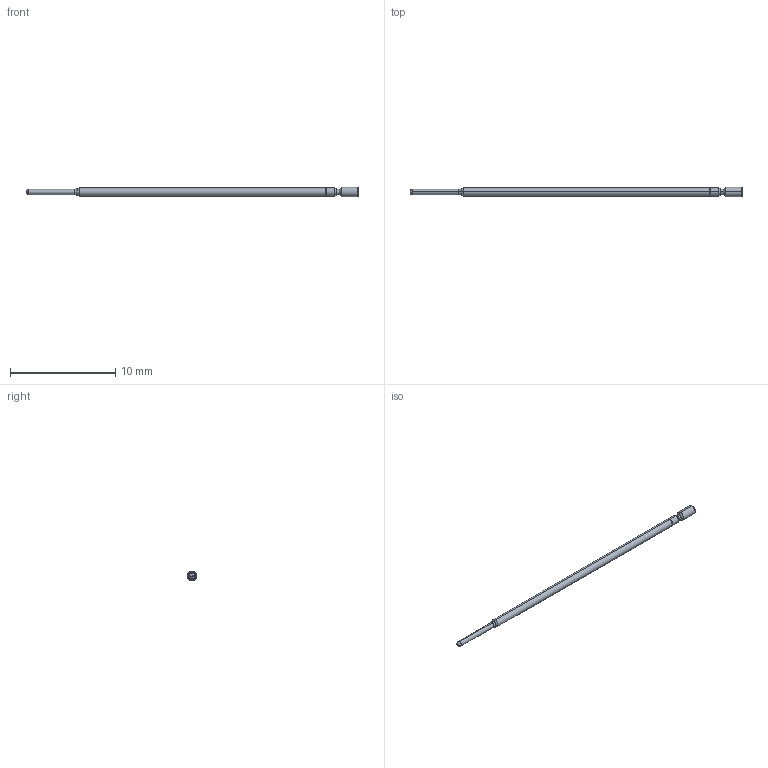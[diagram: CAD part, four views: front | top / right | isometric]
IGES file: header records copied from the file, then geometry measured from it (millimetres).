
Start section: SolidWorks IGES file using analytic representation for surfaces
Global section: file name: C:\Documents and Settings\mrumschlag\Desktop\changes\new\test\F FULL.IGS; native system: SolidWorks 2011; preprocessor: SolidWorks 2011; author: mrumschlag; date: 110630.142723; units: inch
Bounding box: 31.58 x 0.89 x 0.89 mm (x, y, z)
Surface area: 73 mm2 (no closed solid volume)
Topology: 0 solids, 0 shells, 30 faces, 164 edges, 162 vertices
Faces by surface type: revolution 20, bspline 10
